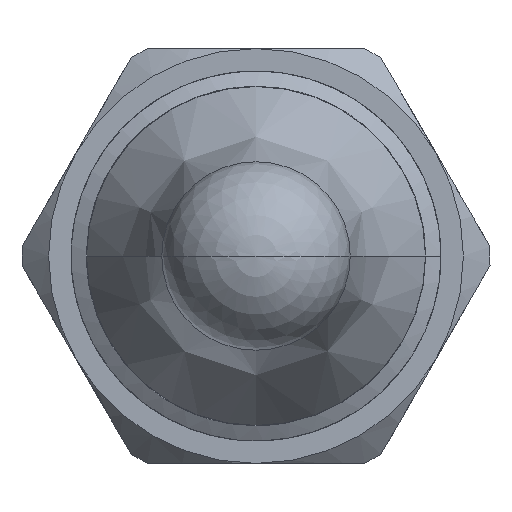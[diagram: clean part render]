
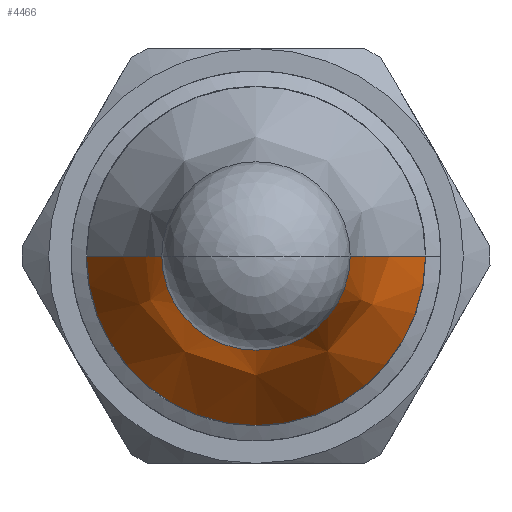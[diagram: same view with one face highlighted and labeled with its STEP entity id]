
A CAD part, front view. The second image highlights one B-rep face of the part: STEP entity #4466.
In plain terms, the highlighted free-form (B-spline) face has degree [2, 3] with [3, 4] control points.
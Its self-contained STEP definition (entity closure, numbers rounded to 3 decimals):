
#77 = CARTESIAN_POINT ( 'NONE',  ( 0., -98., 0. ) ) ;
#94 = EDGE_LOOP ( 'NONE', ( #1234, #2401, #201, #328 ) ) ;
#147 = CARTESIAN_POINT ( 'NONE',  ( -5., -98., 0. ) ) ;
#175 = CARTESIAN_POINT ( 'NONE',  ( 5., -98., -10. ) ) ;
#198 =( BOUNDED_SURFACE ( )  B_SPLINE_SURFACE ( 2, 3, ( 
 ( #4631, #1754, #3470, #642 ),
 ( #4605, #2602, #572, #3867 ),
 ( #5103, #175, #2576, #1437 ) ),
 .UNSPECIFIED., .F., .F., .F. ) 
 B_SPLINE_SURFACE_WITH_KNOTS ( ( 3, 3 ),
 ( 4, 4 ),
 ( 0., 0.667 ),
 ( 0., 1. ),
 .UNSPECIFIED. ) 
 GEOMETRIC_REPRESENTATION_ITEM ( )  RATIONAL_B_SPLINE_SURFACE ( (
 ( 1., 0.333, 0.333, 1.),
 ( 1., 0.333, 0.333, 1.),
 ( 1., 0.333, 0.333, 1.) ) ) 
 REPRESENTATION_ITEM ( '' )  SURFACE ( )  );
#201 = ORIENTED_EDGE ( 'NONE', *, *, #5009, .T. ) ;
#328 = ORIENTED_EDGE ( 'NONE', *, *, #4459, .F. ) ;
#572 = CARTESIAN_POINT ( 'NONE',  ( -5.664, -93.124, -11.328 ) ) ;
#642 = CARTESIAN_POINT ( 'NONE',  ( -8.99, -88.8, 0. ) ) ;
#662 = EDGE_CURVE ( 'NONE', #1156, #1440, #3536, .T. ) ;
#669 = VERTEX_POINT ( 'NONE', #1845 ) ;
#722 = DIRECTION ( 'NONE',  ( 0., 1., 0. ) ) ;
#839 = AXIS2_PLACEMENT_3D ( 'NONE', #77, #1314, #1733 ) ;
#1023 = CARTESIAN_POINT ( 'NONE',  ( 5.664, -93.124, 0. ) ) ;
#1156 = VERTEX_POINT ( 'NONE', #2297 ) ;
#1212 = DIRECTION ( 'NONE',  ( -1., 0., 0. ) ) ;
#1234 = ORIENTED_EDGE ( 'NONE', *, *, #1849, .F. ) ;
#1314 = DIRECTION ( 'NONE',  ( 0., 1., 0. ) ) ;
#1413 = CARTESIAN_POINT ( 'NONE',  ( -8.99, -88.8, 0. ) ) ;
#1437 = CARTESIAN_POINT ( 'NONE',  ( -5., -98., 0. ) ) ;
#1440 = VERTEX_POINT ( 'NONE', #1746 ) ;
#1441 = B_SPLINE_CURVE_WITH_KNOTS ( 'NONE', 2,
 ( #1413, #3790, #147 ),
 .UNSPECIFIED., .F., .F.,
 ( 3, 3 ),
 ( 0., 0.667 ),
 .UNSPECIFIED. ) ;
#1566 = CARTESIAN_POINT ( 'NONE',  ( 0., -88.8, 0. ) ) ;
#1733 = DIRECTION ( 'NONE',  ( -1., 0., 0. ) ) ;
#1746 = CARTESIAN_POINT ( 'NONE',  ( 5., -98., 0. ) ) ;
#1754 = CARTESIAN_POINT ( 'NONE',  ( 8.99, -88.8, -17.98 ) ) ;
#1845 = CARTESIAN_POINT ( 'NONE',  ( -8.99, -88.8, 0. ) ) ;
#1849 = EDGE_CURVE ( 'NONE', #1156, #669, #2792, .T. ) ;
#2297 = CARTESIAN_POINT ( 'NONE',  ( 8.99, -88.8, 0. ) ) ;
#2401 = ORIENTED_EDGE ( 'NONE', *, *, #662, .T. ) ;
#2576 = CARTESIAN_POINT ( 'NONE',  ( -5., -98., -10. ) ) ;
#2602 = CARTESIAN_POINT ( 'NONE',  ( 5.664, -93.124, -11.328 ) ) ;
#2644 = CARTESIAN_POINT ( 'NONE',  ( 8.99, -88.8, 0. ) ) ;
#2792 = CIRCLE ( 'NONE', #2888, 8.99 ) ;
#2888 = AXIS2_PLACEMENT_3D ( 'NONE', #1566, #722, #1212 ) ;
#3470 = CARTESIAN_POINT ( 'NONE',  ( -8.99, -88.8, -17.98 ) ) ;
#3536 = B_SPLINE_CURVE_WITH_KNOTS ( 'NONE', 2,
 ( #2644, #1023, #4995 ),
 .UNSPECIFIED., .F., .F.,
 ( 3, 3 ),
 ( 0., 0.667 ),
 .UNSPECIFIED. ) ;
#3595 = VERTEX_POINT ( 'NONE', #5259 ) ;
#3790 = CARTESIAN_POINT ( 'NONE',  ( -5.664, -93.124, 0. ) ) ;
#3867 = CARTESIAN_POINT ( 'NONE',  ( -5.664, -93.124, 0. ) ) ;
#4459 = EDGE_CURVE ( 'NONE', #669, #3595, #1441, .T. ) ;
#4466 = ADVANCED_FACE ( 'NONE', ( #5000 ), #198, .T. ) ;
#4605 = CARTESIAN_POINT ( 'NONE',  ( 5.664, -93.124, 0. ) ) ;
#4631 = CARTESIAN_POINT ( 'NONE',  ( 8.99, -88.8, 0. ) ) ;
#4766 = CIRCLE ( 'NONE', #839, 5. ) ;
#4995 = CARTESIAN_POINT ( 'NONE',  ( 5., -98., 0. ) ) ;
#5000 = FACE_OUTER_BOUND ( 'NONE', #94, .T. ) ;
#5009 = EDGE_CURVE ( 'NONE', #1440, #3595, #4766, .T. ) ;
#5103 = CARTESIAN_POINT ( 'NONE',  ( 5., -98., 0. ) ) ;
#5259 = CARTESIAN_POINT ( 'NONE',  ( -5., -98., 0. ) ) ;
